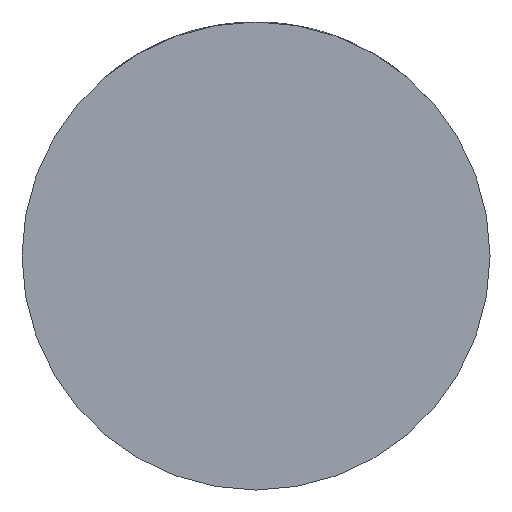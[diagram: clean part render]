
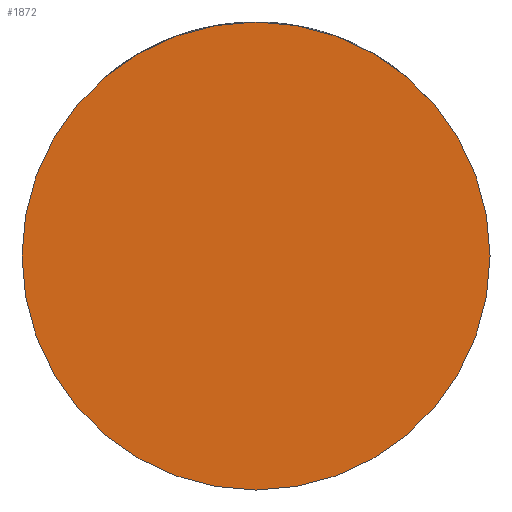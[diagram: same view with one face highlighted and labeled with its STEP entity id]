
A CAD part, front view. The second image highlights one B-rep face of the part: STEP entity #1872.
In plain terms, the highlighted planar face has unit normal (0, -1, 0).
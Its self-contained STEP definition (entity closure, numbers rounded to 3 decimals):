
#169 = CARTESIAN_POINT ( 'NONE',  ( 0., -33., 0. ) ) ;
#183 = VERTEX_POINT ( 'NONE', #4042 ) ;
#228 = AXIS2_PLACEMENT_3D ( 'NONE', #2050, #3475, #4462 ) ;
#520 = EDGE_LOOP ( 'NONE', ( #895, #3200 ) ) ;
#623 = DIRECTION ( 'NONE',  ( 1., 0., 0. ) ) ;
#676 = CARTESIAN_POINT ( 'NONE',  ( -29.5, -33., 0. ) ) ;
#815 = AXIS2_PLACEMENT_3D ( 'NONE', #1553, #4044, #3360 ) ;
#895 = ORIENTED_EDGE ( 'NONE', *, *, #2421, .T. ) ;
#943 = FACE_OUTER_BOUND ( 'NONE', #520, .T. ) ;
#1034 = AXIS2_PLACEMENT_3D ( 'NONE', #169, #2702, #623 ) ;
#1553 = CARTESIAN_POINT ( 'NONE',  ( 0., -33., 0. ) ) ;
#1872 = ADVANCED_FACE ( 'NONE', ( #943 ), #2339, .T. ) ;
#2050 = CARTESIAN_POINT ( 'NONE',  ( 0., -33., 0. ) ) ;
#2181 = EDGE_CURVE ( 'NONE', #183, #4148, #3013, .T. ) ;
#2339 = PLANE ( 'NONE',  #1034 ) ;
#2421 = EDGE_CURVE ( 'NONE', #4148, #183, #4180, .T. ) ;
#2702 = DIRECTION ( 'NONE',  ( 0., -1., 0. ) ) ;
#3013 = CIRCLE ( 'NONE', #228, 29.5 ) ;
#3200 = ORIENTED_EDGE ( 'NONE', *, *, #2181, .T. ) ;
#3360 = DIRECTION ( 'NONE',  ( 1., 0., 0. ) ) ;
#3475 = DIRECTION ( 'NONE',  ( 0., -1., 0. ) ) ;
#4042 = CARTESIAN_POINT ( 'NONE',  ( 29.5, -33., 0. ) ) ;
#4044 = DIRECTION ( 'NONE',  ( 0., -1., 0. ) ) ;
#4148 = VERTEX_POINT ( 'NONE', #676 ) ;
#4180 = CIRCLE ( 'NONE', #815, 29.5 ) ;
#4462 = DIRECTION ( 'NONE',  ( 1., 0., 0. ) ) ;
